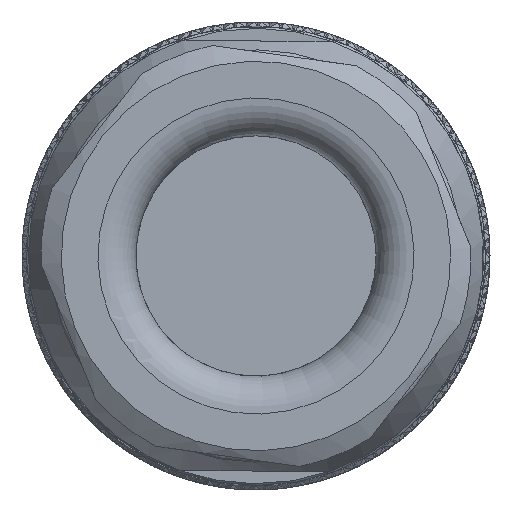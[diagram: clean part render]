
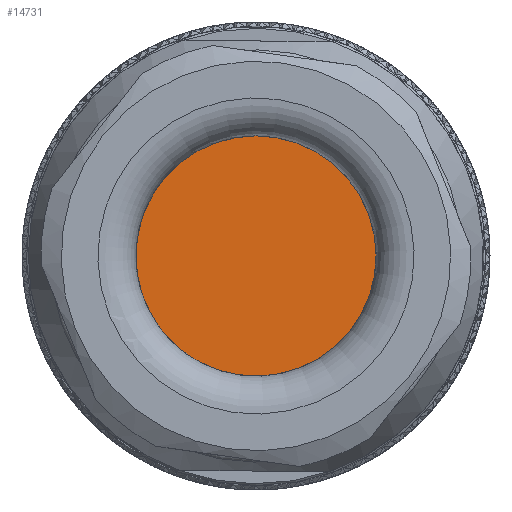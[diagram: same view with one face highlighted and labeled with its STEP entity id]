
A CAD part, left-side view. The second image highlights one B-rep face of the part: STEP entity #14731.
In plain terms, the highlighted planar face has unit normal (-1, 0, 0).
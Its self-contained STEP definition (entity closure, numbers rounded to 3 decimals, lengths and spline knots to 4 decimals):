
#8956=FACE_OUTER_BOUND('',#30803,.T.);
#14731=ADVANCED_FACE('',(#8956),#15167,.T.);
#15167=PLANE('',#74868);
#30803=EDGE_LOOP('',(#52838));
#52838=ORIENTED_EDGE('',*,*,#70781,.F.);
#59743=VERTEX_POINT('',#167885);
#70781=EDGE_CURVE('',#59743,#59743,#72156,.T.);
#72156=CIRCLE('',#74867,4.75);
#74867=AXIS2_PLACEMENT_3D('',#167884,#80372,#80373);
#74868=AXIS2_PLACEMENT_3D('',#167886,#80374,#80375);
#80372=DIRECTION('',(1.,0.,0.));
#80373=DIRECTION('',(0.,0.,1.));
#80374=DIRECTION('',(-1.,0.,0.));
#80375=DIRECTION('',(0.,0.,1.));
#167884=CARTESIAN_POINT('',(-15.,0.,0.));
#167885=CARTESIAN_POINT('',(-15.,0.,4.75));
#167886=CARTESIAN_POINT('',(-15.,0.,0.));
